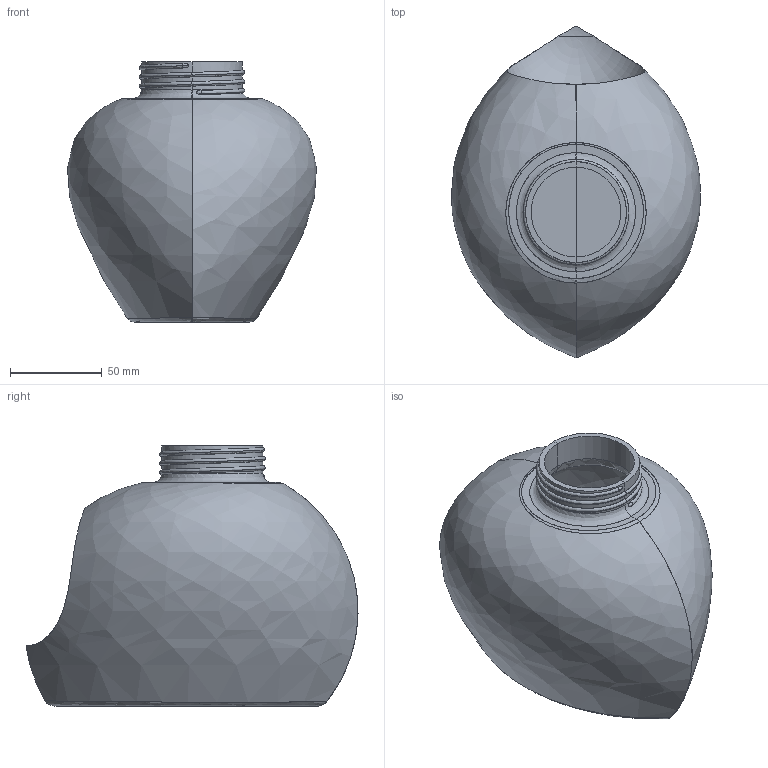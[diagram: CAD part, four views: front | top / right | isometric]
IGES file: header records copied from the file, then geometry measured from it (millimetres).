
Start section: START RECORD GO HERE.
Global section: file name: c1-Verges_Suarez_Felipe-solucion-posible.igs; native system: IBM CATIA IGES - CATIA Version 5 Release 19 ; preprocessor: CATIA Version 5 Release 19 ; author: andres.garcia; organization: IQS; date: 20200131.143946; units: millimetre
Bounding box: 135.88 x 181.07 x 142 mm (x, y, z)
Surface area: 140945.5 mm2 (no closed solid volume)
Topology: 0 solids, 0 shells, 54 faces, 252 edges, 248 vertices
Faces by surface type: bspline 32, revolution 16, plane 6
